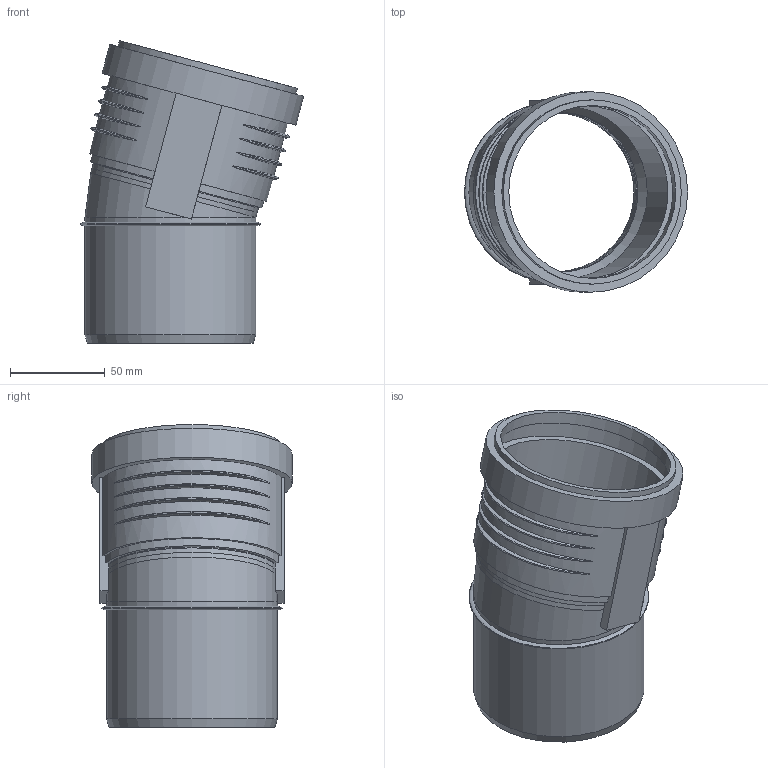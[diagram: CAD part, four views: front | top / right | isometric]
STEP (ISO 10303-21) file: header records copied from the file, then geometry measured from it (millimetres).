
FILE_DESCRIPTION(/* description */ (''),/* implementation_level */ '2;1');
FILE_NAME(/* name */ 'Z:\Geberit\Export\NewStep\390420.stp',/* time_stamp */ '2014-04-02T08:12:36+02:00',/* author */ ('ML'),/* organization */ (''),/* preprocessor_version */ 'ST-DEVELOPER v15.2',/* originating_system */ 'Autodesk Inventor 2014',/* authorisation */ '');
FILE_SCHEMA (('AUTOMOTIVE_DESIGN { 1 0 10303 214 3 1 1 }'));
Length unit declared in the file: millimetre
Products named in the file (3): 861311; 861403; 390420
Bounding box: 117.75 x 105.8 x 159.69 mm (x, y, z)
Volume: 149664.6 mm3; surface area: 101361.7 mm2
Topology: 2 solids, 2 shells, 68 faces, 162 edges, 109 vertices
Faces by surface type: torus 28, plane 19, cylinder 18, cone 2, bspline 1
Full cylindrical faces by diameter (mm): 84 x2, 84.2 x1, 90.2 x4, 91.2 x2, 97.2 x1, 99.8 x1, 105.8 x1
Entity records: 2726 total; most frequent: CARTESIAN_POINT 1150, DIRECTION 290, ORIENTED_EDGE 278, EDGE_CURVE 139, AXIS2_PLACEMENT_3D 127, VERTEX_POINT 106, EDGE_LOOP 103, STYLED_ITEM 70
